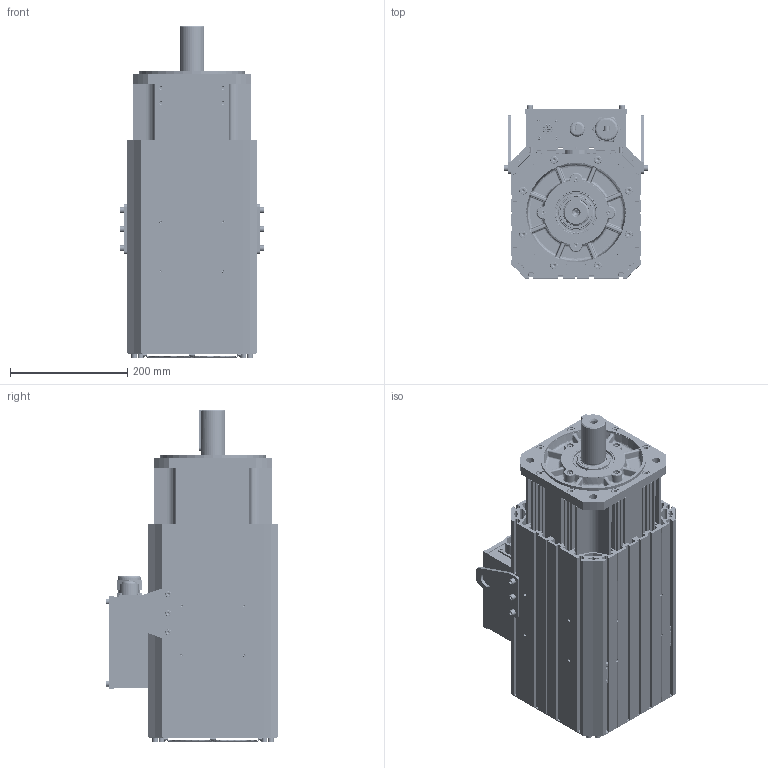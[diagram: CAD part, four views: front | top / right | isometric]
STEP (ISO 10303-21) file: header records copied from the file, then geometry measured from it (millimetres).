
FILE_DESCRIPTION (( 'STEP AP214' ), '1' );
FILE_NAME ('VM7-M20D-02015-D1FN.STEP', '2022-04-02T02:03:37', ( '' ), ( '' ), 'SwSTEP 2.0', 'SolidWorks 2014', '' );
FILE_SCHEMA (( 'AUTOMOTIVE_DESIGN' ));
Length unit declared in the file: millimetre
Products named in the file (3): VM7-M20D-02015-D1FN; 翋极ㄗVM7-M20Dㄘ; 俋褲ㄗVM7-M20Dㄘ
Assembly tree (2 placements, depth 2):
  VM7-M20D-02015-D1FN
    翋极ㄗVM7-M20Dㄘ
    俋褲ㄗVM7-M20Dㄘ
Bounding box: 246.2 x 294.7 x 566 mm (x, y, z)
Volume: 2134379.2 mm3; surface area: 2524440.5 mm2
Topology: 45 solids, 183 shells, 5660 faces, 14472 edges, 9117 vertices
Faces by surface type: plane 3221, cylinder 1323, cone 587, bspline 529
Entity records: 187119 total; most frequent: CARTESIAN_POINT 50233, ORIENTED_EDGE 28442, DIRECTION 27688, EDGE_CURVE 14230, AXIS2_PLACEMENT_3D 9527, VERTEX_POINT 9117, LINE 8634, VECTOR 8634
